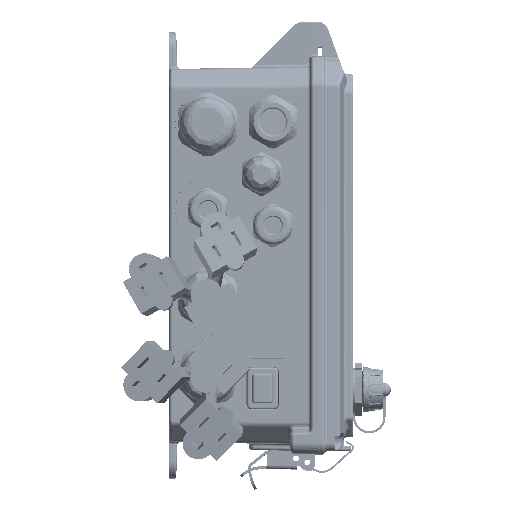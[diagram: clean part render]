
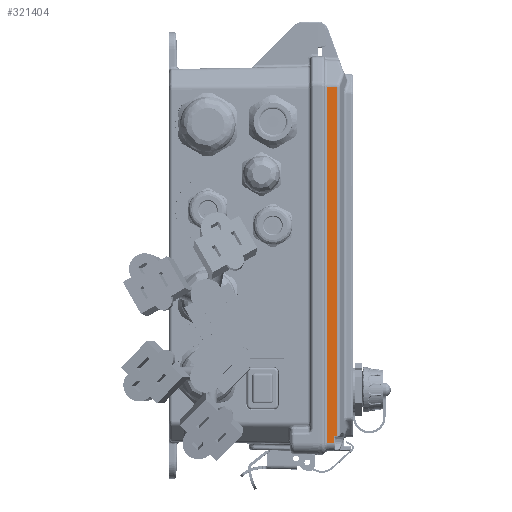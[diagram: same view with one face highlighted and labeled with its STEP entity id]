
A CAD part, top view. The second image highlights one B-rep face of the part: STEP entity #321404.
In plain terms, the highlighted planar face has unit normal (0.026, 0, 1) as drawn and (0, 0.026, -1) by its records, which use the part's own axes.
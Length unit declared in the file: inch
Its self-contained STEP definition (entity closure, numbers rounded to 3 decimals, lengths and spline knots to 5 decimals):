
#9619 = B_SPLINE_CURVE_WITH_KNOTS ( 'NONE', 3,
 ( #186909, #251787, #54096, #155125 ),
 .UNSPECIFIED., .F., .F.,
 ( 4, 4 ),
 ( 0., 1. ),
 .UNSPECIFIED. ) ;
#12012 = EDGE_CURVE ( 'NONE', #230241, #344417, #9619, .T. ) ;
#16999 = ORIENTED_EDGE ( 'NONE', *, *, #33215, .T. ) ;
#19776 = DIRECTION ( 'NONE',  ( 0.011, -1., -0.026 ) ) ;
#27461 = ORIENTED_EDGE ( 'NONE', *, *, #148981, .T. ) ;
#28411 = CARTESIAN_POINT ( 'NONE',  ( -4.01818, 0.35134, -3.2888 ) ) ;
#29820 = CARTESIAN_POINT ( 'NONE',  ( -3.96765, 0.38835, -3.28783 ) ) ;
#32546 = EDGE_CURVE ( 'NONE', #253621, #230241, #126660, .T. ) ;
#33215 = EDGE_CURVE ( 'NONE', #344417, #373811, #393515, .T. ) ;
#41926 = B_SPLINE_CURVE_WITH_KNOTS ( 'NONE', 3,
 ( #226107, #28411, #127951, #289617, #422406, #259243, #257819, #129397, #324104, #130822, #292468, #161122, #428132, #164004, #393496, #326965, #162561, #295304, #426703, #293903, #126536, #224711, #355953, #60094, #61524, #29820 ),
 .UNSPECIFIED., .F., .F.,
 ( 4, 1, 1, 1, 1, 2, 2, 1, 1, 1, 2, 2, 1, 1, 1, 2, 2, 4 ),
 ( 0., 0.125, 0.1875, 0.21875, 0.23437, 0.24219, 0.25, 0.375, 0.4375, 0.46875, 0.48437, 0.5, 0.625, 0.6875, 0.71875, 0.73437, 0.75, 1. ),
 .UNSPECIFIED. ) ;
#54096 = CARTESIAN_POINT ( 'NONE',  ( -4.11011, 0.30371, -3.29005 ) ) ;
#60094 = CARTESIAN_POINT ( 'NONE',  ( -3.96955, 0.37876, -3.28808 ) ) ;
#61453 = ORIENTED_EDGE ( 'NONE', *, *, #304766, .F. ) ;
#61524 = CARTESIAN_POINT ( 'NONE',  ( -3.96796, 0.38345, -3.28796 ) ) ;
#88687 = VECTOR ( 'NONE', #243765, 39.37008 ) ;
#92827 = ORIENTED_EDGE ( 'NONE', *, *, #235797, .T. ) ;
#92930 = VERTEX_POINT ( 'NONE', #354378 ) ;
#105137 = VERTEX_POINT ( 'NONE', #296782 ) ;
#115432 = CARTESIAN_POINT ( 'NONE',  ( -3.96535, 0.42471, -3.28688 ) ) ;
#126536 = CARTESIAN_POINT ( 'NONE',  ( -3.97304, 0.37332, -3.28822 ) ) ;
#126660 = LINE ( 'NONE', #328626, #291881 ) ;
#127788 = LINE ( 'NONE', #380562, #344764 ) ;
#127951 = CARTESIAN_POINT ( 'NONE',  ( -4.01209, 0.35183, -3.28879 ) ) ;
#129397 = CARTESIAN_POINT ( 'NONE',  ( -3.999, 0.35508, -3.2887 ) ) ;
#130822 = CARTESIAN_POINT ( 'NONE',  ( -3.99543, 0.35631, -3.28867 ) ) ;
#136557 = CARTESIAN_POINT ( 'NONE',  ( -26.7831, 0.42471, -3.28688 ) ) ;
#144644 = CARTESIAN_POINT ( 'NONE',  ( 3.68918, 0.20843, -3.29254 ) ) ;
#148981 = EDGE_CURVE ( 'NONE', #92930, #363581, #338523, .T. ) ;
#155125 = CARTESIAN_POINT ( 'NONE',  ( -4.10886, 0.35134, -3.2888 ) ) ;
#161122 = CARTESIAN_POINT ( 'NONE',  ( -3.98643, 0.36087, -3.28855 ) ) ;
#162561 = CARTESIAN_POINT ( 'NONE',  ( -3.98012, 0.36541, -3.28843 ) ) ;
#164004 = CARTESIAN_POINT ( 'NONE',  ( -3.98333, 0.36298, -3.2885 ) ) ;
#173315 = CARTESIAN_POINT ( 'NONE',  ( -4.02234, 0.35134, -3.2888 ) ) ;
#174411 = DIRECTION ( 'NONE',  ( 0.063, 0.998, 0.026 ) ) ;
#186909 = CARTESIAN_POINT ( 'NONE',  ( -4.1126, 0.20843, -3.29254 ) ) ;
#196002 = DIRECTION ( 'NONE',  ( -1., 0., 0. ) ) ;
#200285 = CARTESIAN_POINT ( 'NONE',  ( -4.10886, 0.35134, -3.2888 ) ) ;
#201261 = EDGE_LOOP ( 'NONE', ( #354401, #318226, #342050, #16999, #92827, #27461, #61453 ) ) ;
#202717 = CARTESIAN_POINT ( 'NONE',  ( 5.38739, 0., -3.298 ) ) ;
#218476 = LINE ( 'NONE', #136557, #290815 ) ;
#224711 = CARTESIAN_POINT ( 'NONE',  ( -3.97272, 0.3738, -3.28821 ) ) ;
#226107 = CARTESIAN_POINT ( 'NONE',  ( -4.02234, 0.35134, -3.2888 ) ) ;
#230241 = VERTEX_POINT ( 'NONE', #366188 ) ;
#235797 = EDGE_CURVE ( 'NONE', #373811, #92930, #41926, .T. ) ;
#240063 = DIRECTION ( 'NONE',  ( 0., 1., 0.026 ) ) ;
#243765 = DIRECTION ( 'NONE',  ( 1., 0., 0. ) ) ;
#251787 = CARTESIAN_POINT ( 'NONE',  ( -4.11136, 0.25607, -3.29129 ) ) ;
#253621 = VERTEX_POINT ( 'NONE', #144644 ) ;
#257819 = CARTESIAN_POINT ( 'NONE',  ( -3.99948, 0.35492, -3.28871 ) ) ;
#259243 = CARTESIAN_POINT ( 'NONE',  ( -4.00019, 0.35469, -3.28871 ) ) ;
#267774 = FACE_OUTER_BOUND ( 'NONE', #201261, .T. ) ;
#274106 = CARTESIAN_POINT ( 'NONE',  ( 5.38739, 0.35134, -3.2888 ) ) ;
#289617 = CARTESIAN_POINT ( 'NONE',  ( -4.00522, 0.35325, -3.28875 ) ) ;
#290815 = VECTOR ( 'NONE', #367471, 39.37008 ) ;
#291881 = VECTOR ( 'NONE', #196002, 39.37008 ) ;
#292468 = CARTESIAN_POINT ( 'NONE',  ( -3.99105, 0.35819, -3.28862 ) ) ;
#293903 = CARTESIAN_POINT ( 'NONE',  ( -3.97353, 0.37261, -3.28824 ) ) ;
#295304 = CARTESIAN_POINT ( 'NONE',  ( -3.97739, 0.36787, -3.28837 ) ) ;
#296782 = CARTESIAN_POINT ( 'NONE',  ( 3.68683, 0.42471, -3.28688 ) ) ;
#304766 = EDGE_CURVE ( 'NONE', #105137, #363581, #218476, .T. ) ;
#305029 = DIRECTION ( 'NONE',  ( 0., 0.026, -1. ) ) ;
#318226 = ORIENTED_EDGE ( 'NONE', *, *, #32546, .T. ) ;
#321404 = ADVANCED_FACE ( 'NONE', ( #267774 ), #357635, .T. ) ;
#324104 = CARTESIAN_POINT ( 'NONE',  ( -3.99873, 0.35518, -3.2887 ) ) ;
#326965 = CARTESIAN_POINT ( 'NONE',  ( -3.98239, 0.36368, -3.28848 ) ) ;
#328626 = CARTESIAN_POINT ( 'NONE',  ( 5.38739, 0.20843, -3.29254 ) ) ;
#329724 = EDGE_CURVE ( 'NONE', #105137, #253621, #127788, .T. ) ;
#331932 = AXIS2_PLACEMENT_3D ( 'NONE', #202717, #305029, #240063 ) ;
#338523 = LINE ( 'NONE', #372081, #389967 ) ;
#342050 = ORIENTED_EDGE ( 'NONE', *, *, #12012, .T. ) ;
#344417 = VERTEX_POINT ( 'NONE', #200285 ) ;
#344764 = VECTOR ( 'NONE', #19776, 39.37008 ) ;
#354378 = CARTESIAN_POINT ( 'NONE',  ( -3.96765, 0.38835, -3.28783 ) ) ;
#354401 = ORIENTED_EDGE ( 'NONE', *, *, #329724, .T. ) ;
#355953 = CARTESIAN_POINT ( 'NONE',  ( -3.97259, 0.374, -3.28821 ) ) ;
#357635 = PLANE ( 'NONE',  #331932 ) ;
#363581 = VERTEX_POINT ( 'NONE', #115432 ) ;
#366188 = CARTESIAN_POINT ( 'NONE',  ( -4.1126, 0.20843, -3.29254 ) ) ;
#367471 = DIRECTION ( 'NONE',  ( -1., 0., 0. ) ) ;
#372081 = CARTESIAN_POINT ( 'NONE',  ( -3.96765, 0.38835, -3.28783 ) ) ;
#373811 = VERTEX_POINT ( 'NONE', #173315 ) ;
#380562 = CARTESIAN_POINT ( 'NONE',  ( 3.68683, 0.42471, -3.28688 ) ) ;
#389967 = VECTOR ( 'NONE', #174411, 39.37008 ) ;
#393496 = CARTESIAN_POINT ( 'NONE',  ( -3.98273, 0.36342, -3.28848 ) ) ;
#393515 = LINE ( 'NONE', #274106, #88687 ) ;
#422406 = CARTESIAN_POINT ( 'NONE',  ( -4.00186, 0.35418, -3.28873 ) ) ;
#426703 = CARTESIAN_POINT ( 'NONE',  ( -3.97473, 0.37099, -3.28829 ) ) ;
#428132 = CARTESIAN_POINT ( 'NONE',  ( -3.98424, 0.36233, -3.28851 ) ) ;
